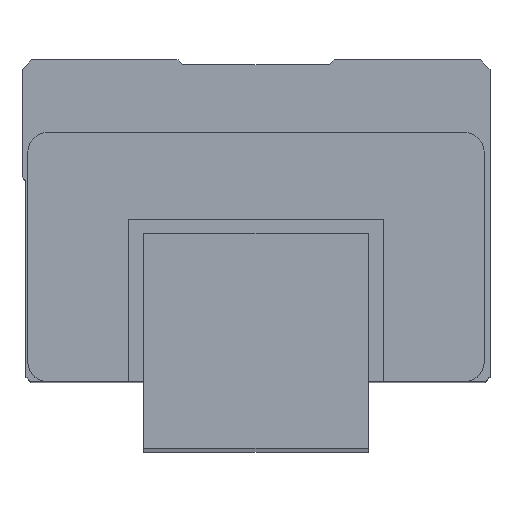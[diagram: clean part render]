
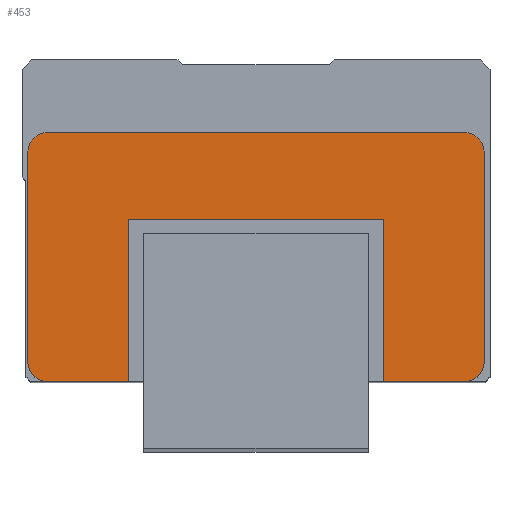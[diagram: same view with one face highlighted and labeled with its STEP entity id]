
A CAD part, top view. The second image highlights one B-rep face of the part: STEP entity #453.
In plain terms, the highlighted planar face has unit normal (0, 0, 1).
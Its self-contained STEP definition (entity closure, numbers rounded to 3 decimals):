
#453 = ADVANCED_FACE( '', ( #745 ), #746, .T. );
#745 = FACE_OUTER_BOUND( '', #1037, .T. );
#746 = PLANE( '', #1038 );
#1037 = EDGE_LOOP( '', ( #2101, #2102, #2103, #2104, #2105, #2106, #2107, #2108, #2109, #2110, #2111, #2112 ) );
#1038 = AXIS2_PLACEMENT_3D( '', #2113, #2114, #2115 );
#2101 = ORIENTED_EDGE( '', *, *, #2443, .F. );
#2102 = ORIENTED_EDGE( '', *, *, #2467, .F. );
#2103 = ORIENTED_EDGE( '', *, *, #2464, .F. );
#2104 = ORIENTED_EDGE( '', *, *, #2461, .F. );
#2105 = ORIENTED_EDGE( '', *, *, #2458, .F. );
#2106 = ORIENTED_EDGE( '', *, *, #2455, .F. );
#2107 = ORIENTED_EDGE( '', *, *, #2428, .F. );
#2108 = ORIENTED_EDGE( '', *, *, #2425, .F. );
#2109 = ORIENTED_EDGE( '', *, *, #2421, .F. );
#2110 = ORIENTED_EDGE( '', *, *, #2453, .F. );
#2111 = ORIENTED_EDGE( '', *, *, #2450, .F. );
#2112 = ORIENTED_EDGE( '', *, *, #2447, .F. );
#2113 = CARTESIAN_POINT( '', ( 11.5, 21.397, 154. ) );
#2114 = DIRECTION( '', ( 0., 0., 1. ) );
#2115 = DIRECTION( '', ( 1., 0., 0. ) );
#2421 = EDGE_CURVE( '', #2947, #2948, #2949, .T. );
#2425 = EDGE_CURVE( '', #2948, #2955, #2956, .T. );
#2428 = EDGE_CURVE( '', #2955, #2960, #2961, .T. );
#2443 = EDGE_CURVE( '', #2985, #2986, #2987, .T. );
#2447 = EDGE_CURVE( '', #2986, #2993, #2994, .T. );
#2450 = EDGE_CURVE( '', #2993, #2998, #2999, .T. );
#2453 = EDGE_CURVE( '', #2998, #2947, #3003, .T. );
#2455 = EDGE_CURVE( '', #2960, #3005, #3006, .T. );
#2458 = EDGE_CURVE( '', #3005, #3010, #3011, .T. );
#2461 = EDGE_CURVE( '', #3010, #3015, #3016, .T. );
#2464 = EDGE_CURVE( '', #3015, #3020, #3021, .T. );
#2467 = EDGE_CURVE( '', #3020, #2985, #3025, .T. );
#2947 = VERTEX_POINT( '', #3707 );
#2948 = VERTEX_POINT( '', #3708 );
#2949 = LINE( '', #3709, #3710 );
#2955 = VERTEX_POINT( '', #3719 );
#2956 = LINE( '', #3720, #3721 );
#2960 = VERTEX_POINT( '', #3727 );
#2961 = LINE( '', #3728, #3729 );
#2985 = VERTEX_POINT( '', #3767 );
#2986 = VERTEX_POINT( '', #3768 );
#2987 = CIRCLE( '', #3769, 2. );
#2993 = VERTEX_POINT( '', #3777 );
#2994 = LINE( '', #3778, #3779 );
#2998 = VERTEX_POINT( '', #3785 );
#2999 = CIRCLE( '', #3786, 2. );
#3003 = LINE( '', #3791, #3792 );
#3005 = VERTEX_POINT( '', #3795 );
#3006 = LINE( '', #3796, #3797 );
#3010 = VERTEX_POINT( '', #3803 );
#3011 = CIRCLE( '', #3804, 2. );
#3015 = VERTEX_POINT( '', #3809 );
#3016 = LINE( '', #3810, #3811 );
#3020 = VERTEX_POINT( '', #3817 );
#3021 = CIRCLE( '', #3818, 2. );
#3025 = LINE( '', #3823, #3824 );
#3707 = CARTESIAN_POINT( '', ( 24.6, 7., 154. ) );
#3708 = CARTESIAN_POINT( '', ( 24.6, 23.6, 154. ) );
#3709 = CARTESIAN_POINT( '', ( 24.6, 7., 154. ) );
#3710 = VECTOR( '', #4293, 1. );
#3719 = CARTESIAN_POINT( '', ( -1.6, 23.6, 154. ) );
#3720 = CARTESIAN_POINT( '', ( 24.6, 23.6, 154. ) );
#3721 = VECTOR( '', #4297, 1. );
#3727 = CARTESIAN_POINT( '', ( -1.6, 7., 154. ) );
#3728 = CARTESIAN_POINT( '', ( -1.6, 23.6, 154. ) );
#3729 = VECTOR( '', #4300, 1. );
#3767 = CARTESIAN_POINT( '', ( 32.9, 32.5, 154. ) );
#3768 = CARTESIAN_POINT( '', ( 34.9, 30.5, 154. ) );
#3769 = AXIS2_PLACEMENT_3D( '', #4315, #4316, #4317 );
#3777 = CARTESIAN_POINT( '', ( 34.9, 9., 154. ) );
#3778 = CARTESIAN_POINT( '', ( 34.9, 30.5, 154. ) );
#3779 = VECTOR( '', #4323, 1. );
#3785 = CARTESIAN_POINT( '', ( 32.9, 7., 154. ) );
#3786 = AXIS2_PLACEMENT_3D( '', #4326, #4327, #4328 );
#3791 = CARTESIAN_POINT( '', ( 32.9, 7., 154. ) );
#3792 = VECTOR( '', #4333, 1. );
#3795 = CARTESIAN_POINT( '', ( -9.9, 7., 154. ) );
#3796 = CARTESIAN_POINT( '', ( -9.9, 7., 154. ) );
#3797 = VECTOR( '', #4335, 1. );
#3803 = CARTESIAN_POINT( '', ( -11.9, 9., 154. ) );
#3804 = AXIS2_PLACEMENT_3D( '', #4338, #4339, #4340 );
#3809 = CARTESIAN_POINT( '', ( -11.9, 30.5, 154. ) );
#3810 = CARTESIAN_POINT( '', ( -11.9, 30.5, 154. ) );
#3811 = VECTOR( '', #4345, 1. );
#3817 = CARTESIAN_POINT( '', ( -9.9, 32.5, 154. ) );
#3818 = AXIS2_PLACEMENT_3D( '', #4348, #4349, #4350 );
#3823 = CARTESIAN_POINT( '', ( -9.9, 32.5, 154. ) );
#3824 = VECTOR( '', #4355, 1. );
#4293 = DIRECTION( '', ( 0., 1., 0. ) );
#4297 = DIRECTION( '', ( -1., 0., 0. ) );
#4300 = DIRECTION( '', ( 0., -1., 0. ) );
#4315 = CARTESIAN_POINT( '', ( 32.9, 30.5, 154. ) );
#4316 = DIRECTION( '', ( 0., 0., -1. ) );
#4317 = DIRECTION( '', ( 1., 0., 0. ) );
#4323 = DIRECTION( '', ( 0., -1., 0. ) );
#4326 = CARTESIAN_POINT( '', ( 32.9, 9., 154. ) );
#4327 = DIRECTION( '', ( 0., 0., -1. ) );
#4328 = DIRECTION( '', ( 1., 0., 0. ) );
#4333 = DIRECTION( '', ( -1., 0., 0. ) );
#4335 = DIRECTION( '', ( -1., 0., 0. ) );
#4338 = CARTESIAN_POINT( '', ( -9.9, 9., 154. ) );
#4339 = DIRECTION( '', ( 0., 0., -1. ) );
#4340 = DIRECTION( '', ( 1., 0., 0. ) );
#4345 = DIRECTION( '', ( 0., 1., 0. ) );
#4348 = CARTESIAN_POINT( '', ( -9.9, 30.5, 154. ) );
#4349 = DIRECTION( '', ( 0., 0., -1. ) );
#4350 = DIRECTION( '', ( 1., 0., 0. ) );
#4355 = DIRECTION( '', ( 1., 0., 0. ) );
